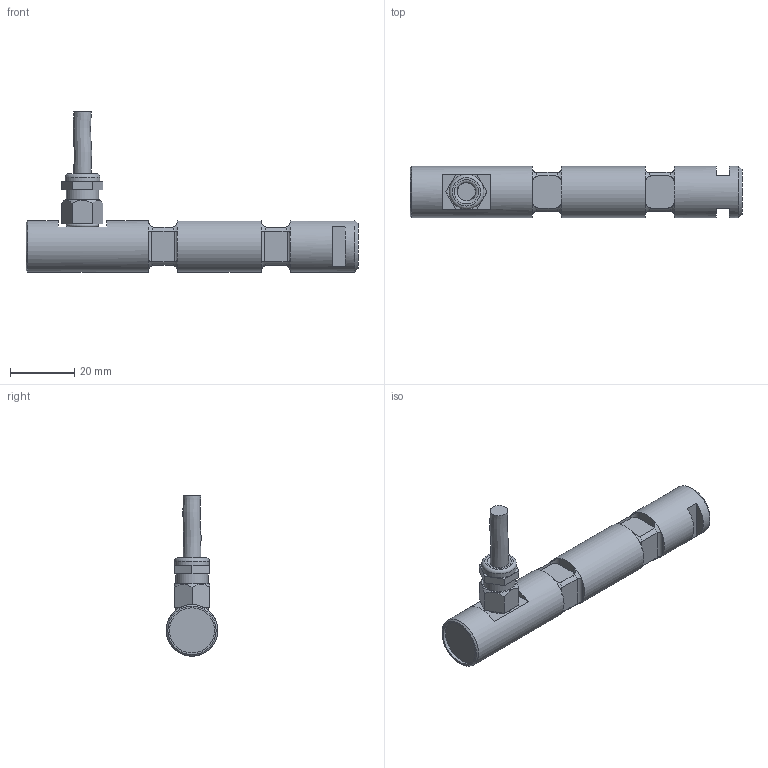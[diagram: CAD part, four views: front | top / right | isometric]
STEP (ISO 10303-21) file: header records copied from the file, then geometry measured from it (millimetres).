
FILE_DESCRIPTION(/* description */ ('Alibre Inc.'),/* implementation_level */ '2;1');
FILE_NAME(/* name */ 'export-93C6B498-F9FF-4142-92B2-0E335EF2494F',/* time_stamp */ '2024-04-12T09:30:20+02:00',/* author */ (''),/* organization */ (''),/* preprocessor_version */ 'ST-DEVELOPER v17',/* originating_system */ 'Alibre',/* authorisation */ '');
FILE_SCHEMA (('CONFIG_CONTROL_DESIGN'));
Length unit declared in the file: centimetre
Bounding box: 103 x 16 x 49.73 mm (x, y, z)
Volume: 20244.6 mm3; surface area: 7752.5 mm2
Topology: 4 solids, 4 shells, 131 faces, 307 edges, 191 vertices
Faces by surface type: plane 65, cylinder 41, torus 19, cone 5, bspline 1
Full cylindrical faces by diameter (mm): 5.5 x1, 7 x1, 8 x1, 10 x1, 10.8 x1, 14 x1, 16 x3
Entity records: 5138 total; most frequent: CARTESIAN_POINT 2023, ORIENTED_EDGE 572, DIRECTION 390, EDGE_CURVE 286, VERTEX_POINT 188, AXIS2_PLACEMENT_3D 167, FACE_BOUND 158, EDGE_LOOP 157
